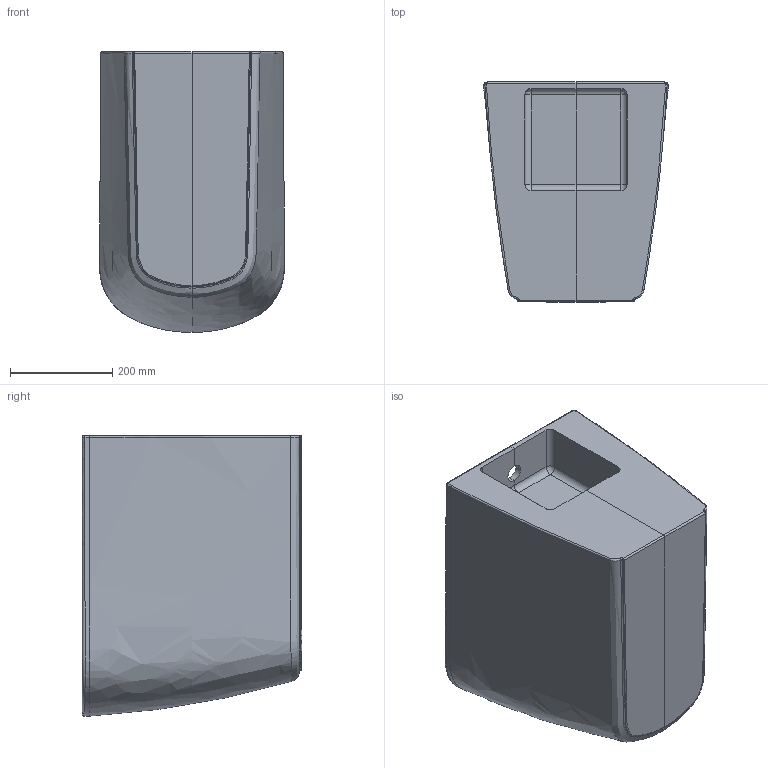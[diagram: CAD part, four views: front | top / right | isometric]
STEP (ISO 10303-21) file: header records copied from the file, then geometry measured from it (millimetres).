
FILE_DESCRIPTION (( 'STEP AP203' ), '1' );
FILE_NAME ('AUBIT0000000M.STEP', '2025-04-15T15:11:50', ( '' ), ( '' ), 'SwSTEP 2.0', 'SolidWorks 2024', '' );
FILE_SCHEMA (( 'CONFIG_CONTROL_DESIGN' ));
Length unit declared in the file: millimetre
Products named in the file (3): PILETTA CLIKCLAK; AUBIT000000M; AUBIT0000000M
Assembly tree (2 placements, depth 2):
  AUBIT0000000M
    AUBIT000000M
    PILETTA CLIKCLAK
Bounding box: 362.63 x 430 x 550.03 mm (x, y, z)
Volume: 51307258.2 mm3; surface area: 1485433.6 mm2
Topology: 3 solids, 3 shells, 150 faces, 387 edges, 243 vertices
Faces by surface type: plane 62, bspline 46, cylinder 30, cone 8, torus 4
Full cylindrical faces by diameter (mm): 6 x1, 8 x2, 16 x1, 18 x1, 30 x1, 35 x1, 41 x1, 63 x1, 72 x1
Entity records: 14773 total; most frequent: CARTESIAN_POINT 11225, ORIENTED_EDGE 716, DIRECTION 586, EDGE_CURVE 358, VERTEX_POINT 238, AXIS2_PLACEMENT_3D 217, EDGE_LOOP 182, FACE_OUTER_BOUND 164
